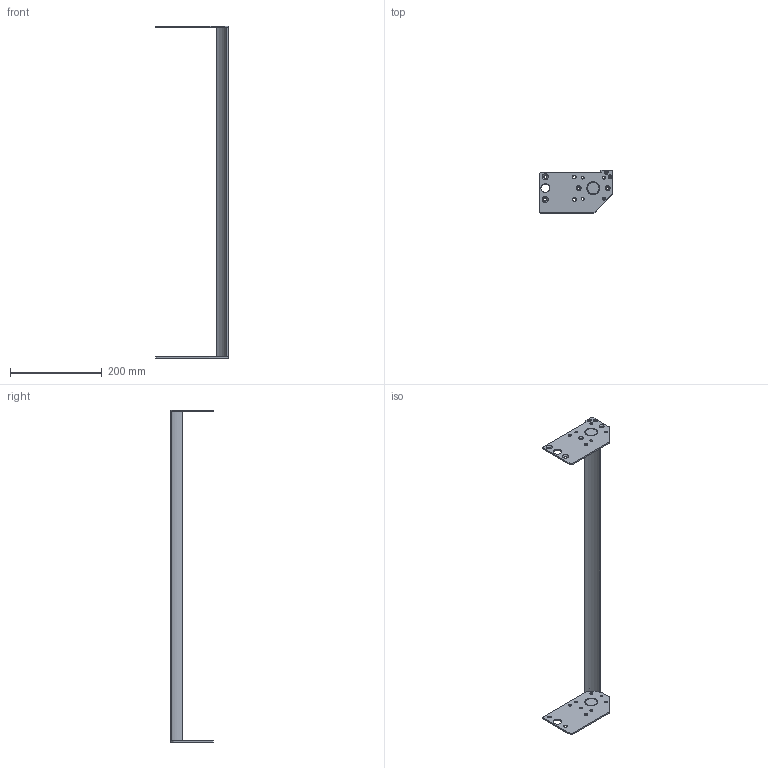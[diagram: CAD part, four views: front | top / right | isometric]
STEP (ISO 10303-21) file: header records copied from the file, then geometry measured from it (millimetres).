
FILE_DESCRIPTION((''),'2;1');
FILE_NAME('27M3300-10_ASM','2017-04-04T',('jenni.wallner'),(''),'PRO/ENGINEER BY PARAMETRIC TECHNOLOGY CORPORATION, 2012420','PRO/ENGINEER BY PARAMETRIC TECHNOLOGY CORPORATION, 2012420','');
FILE_SCHEMA(('CONFIG_CONTROL_DESIGN'));
Length unit declared in the file: inch
Products named in the file (5): 350539-28; 350540; 350541; 930410M; 27M3300-10_ASM
Assembly tree (7 placements, depth 2):
  27M3300-10_ASM
    350539-28
    350540
    350541
    930410M  x4
Bounding box: 157.96 x 92.74 x 723.54 mm (x, y, z)
Volume: 280630.3 mm3; surface area: 136148.6 mm2
Topology: 7 solids, 11 shells, 206 faces, 540 edges, 352 vertices
Faces by surface type: cylinder 96, plane 70, cone 40
Entity records: 5328 total; most frequent: DIRECTION 972, CARTESIAN_POINT 907, ORIENTED_EDGE 836, EDGE_CURVE 426, AXIS2_PLACEMENT_3D 383, VERTEX_POINT 280, EDGE_LOOP 220, CIRCLE 214
